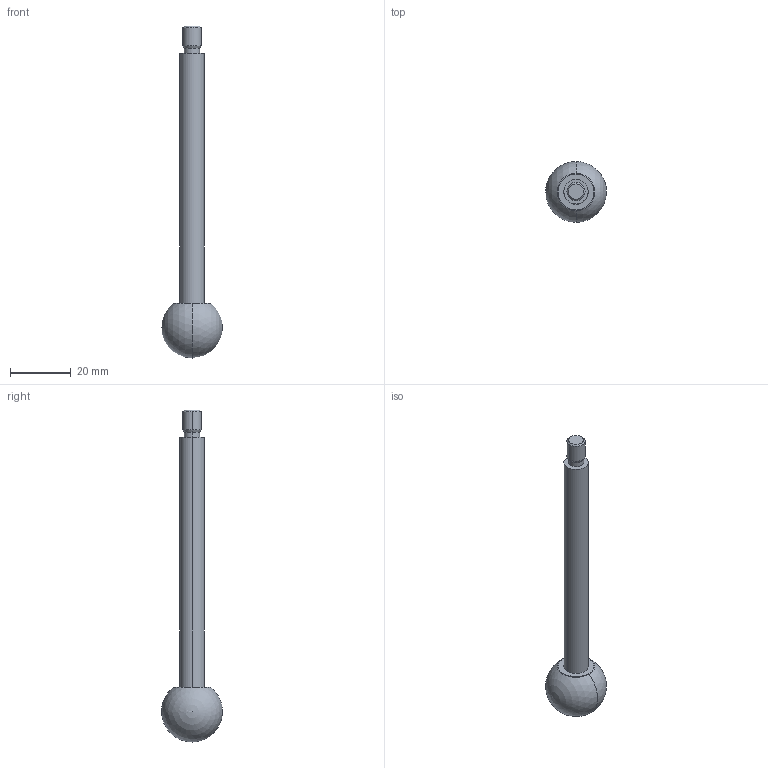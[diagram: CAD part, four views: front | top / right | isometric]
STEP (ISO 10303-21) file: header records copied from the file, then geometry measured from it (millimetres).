
FILE_DESCRIPTION (( 'STEP AP214' ), '1' );
FILE_NAME ('310-8-100-A-ZB.step', '2023-08-07T09:58:29', ( '' ), ( '' ), 'SwSTEP 2.0', 'SolidWorks 2022', '' );
FILE_SCHEMA (( 'AUTOMOTIVE_DESIGN' ));
Length unit declared in the file: millimetre
Products named in the file (1): 310-8-100-A-ZB
Bounding box: 20 x 19.97 x 109 mm (x, y, z)
Volume: 8427.4 mm3; surface area: 3472.8 mm2
Topology: 1 solids, 1 shells, 17 faces, 39 edges, 24 vertices
Faces by surface type: cylinder 6, cone 4, plane 3, torus 2, sphere 2
Entity records: 541 total; most frequent: DIRECTION 94, CARTESIAN_POINT 73, ORIENTED_EDGE 68, AXIS2_PLACEMENT_3D 42, EDGE_CURVE 34, CIRCLE 24, VERTEX_POINT 21, EDGE_LOOP 19
